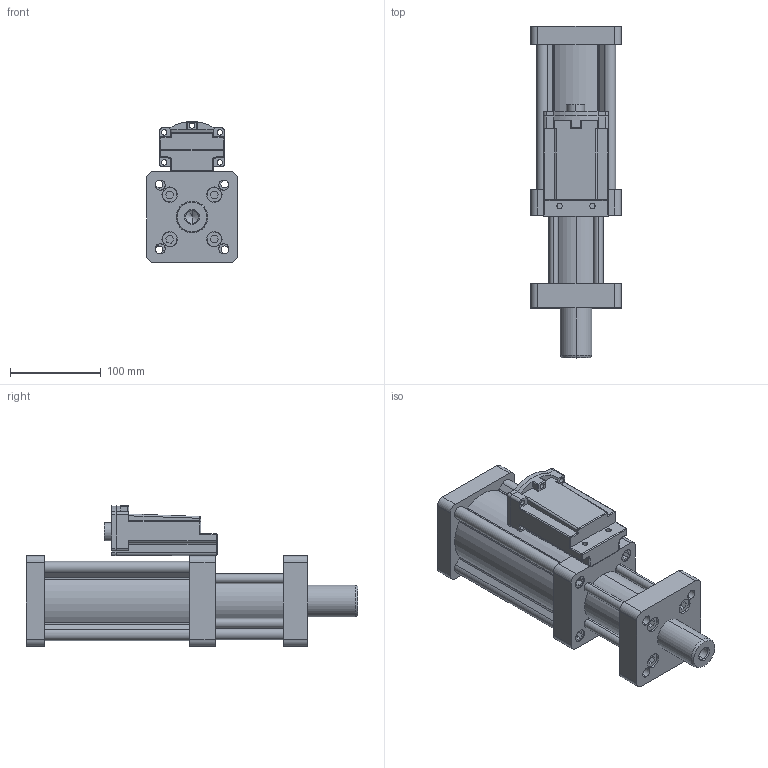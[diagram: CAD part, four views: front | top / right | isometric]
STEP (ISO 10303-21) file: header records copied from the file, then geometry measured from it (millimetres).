
FILE_DESCRIPTION (( 'STEP AP203' ), '1' );
FILE_NAME ('MPTC-50-20-1T.STEP', '2016-03-15T07:59:24', ( 'WIN' ), ( '' ), 'SwSTEP 2.0', 'SolidWorks 2014', '' );
FILE_SCHEMA (( 'CONFIG_CONTROL_DESIGN' ));
Length unit declared in the file: millimetre
Products named in the file (1): MPTC-50-20-1T
Bounding box: 100 x 365 x 154.97 mm (x, y, z)
Surface area: 320796.3 mm2 (no closed solid volume)
Topology: 0 solids, 6 shells, 534 faces, 1316 edges, 816 vertices
Faces by surface type: plane 282, cylinder 213, cone 24, sphere 8, torus 5, bspline 2
Entity records: 16190 total; most frequent: CARTESIAN_POINT 3114, DIRECTION 2867, ORIENTED_EDGE 2577, EDGE_CURVE 1300, AXIS2_PLACEMENT_3D 1061, VERTEX_POINT 816, VECTOR 745, LINE 745
